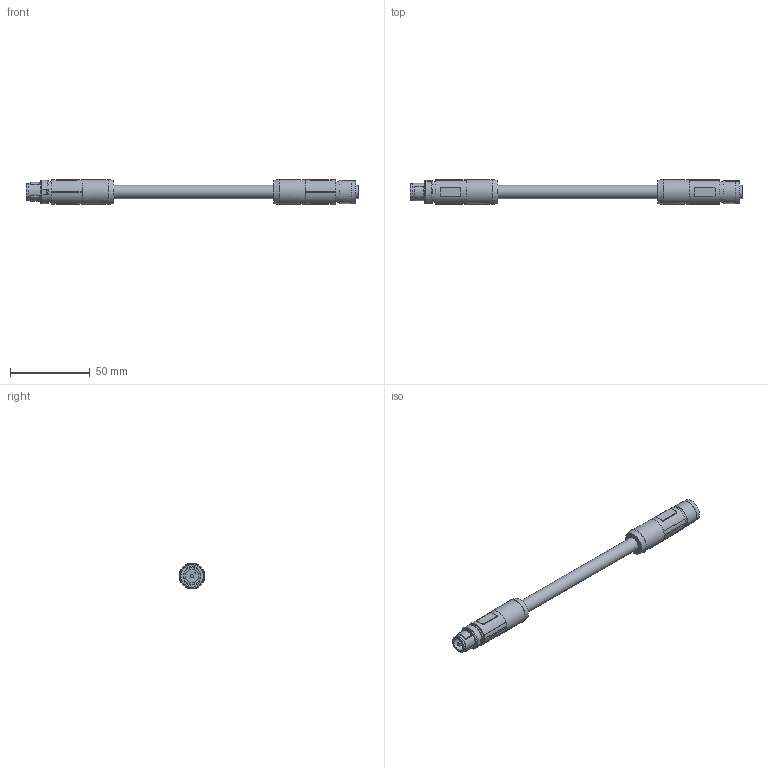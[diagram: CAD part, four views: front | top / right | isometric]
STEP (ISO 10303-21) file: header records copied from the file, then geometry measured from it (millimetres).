
FILE_DESCRIPTION( ( 'STEP AP203' ), '1' );
FILE_NAME( 'p:/temp/worker_44/temp/exporttempdir_3736_402_QAbED/format_2/E12425.stp', '2021-10-15T08:10:02', ( 'License CC BY-ND 4.0' ), ( 'CADENAS' ), ' ', 'PARTsolutions', ' ' );
FILE_SCHEMA( ( 'CONFIG_CONTROL_DESIGN' ) );
Length unit declared in the file: millimetre
Products named in the file (1): _E12425
Bounding box: 207.6 x 16 x 16 mm (x, y, z)
Volume: 23146 mm3; surface area: 9200.4 mm2
Topology: 1 solids, 1 shells, 158 faces, 394 edges, 260 vertices
Faces by surface type: plane 106, cylinder 50, cone 2
Full cylindrical faces by diameter (mm): 8.14 x1, 8.2 x1, 8.4 x1, 10.4 x1, 10.9 x1, 11 x1, 13 x2, 14.4 x1, 14.5 x1, 15.4 x2
Entity records: 4734 total; most frequent: CARTESIAN_POINT 903, DIRECTION 800, ORIENTED_EDGE 752, EDGE_CURVE 376, AXIS2_PLACEMENT_3D 281, VERTEX_POINT 256, LINE 238, VECTOR 238
